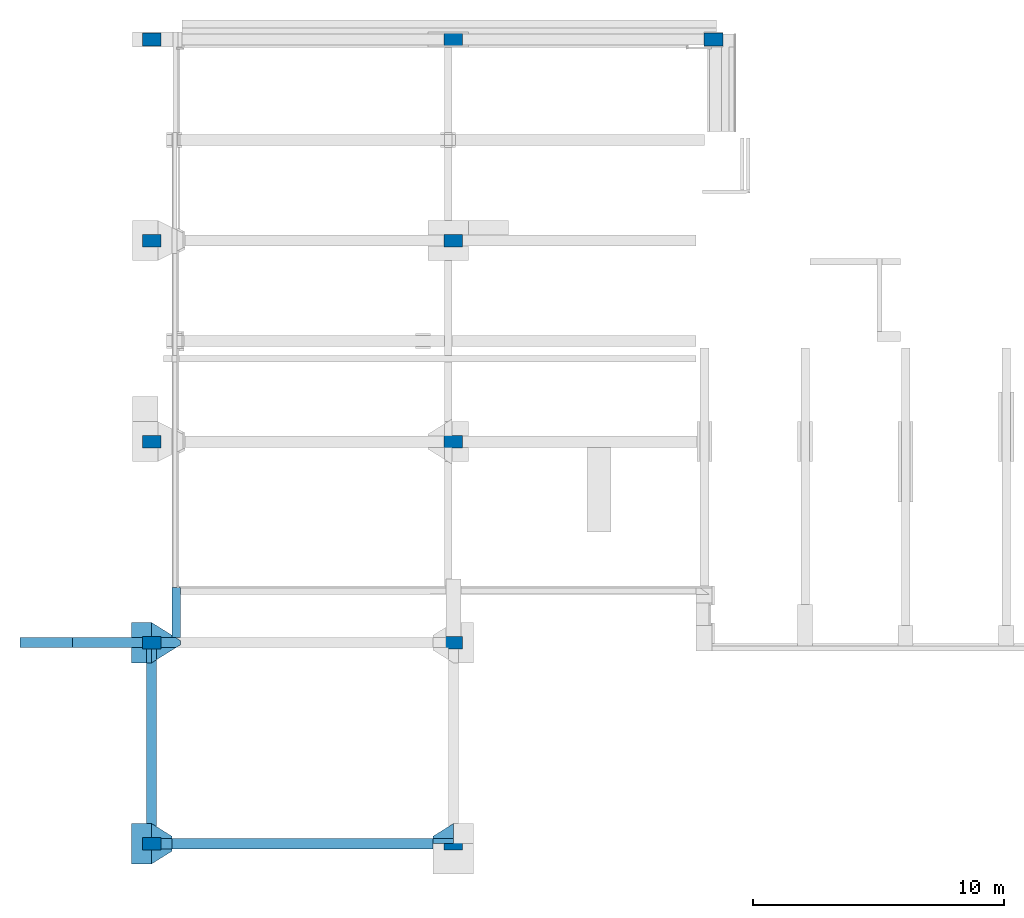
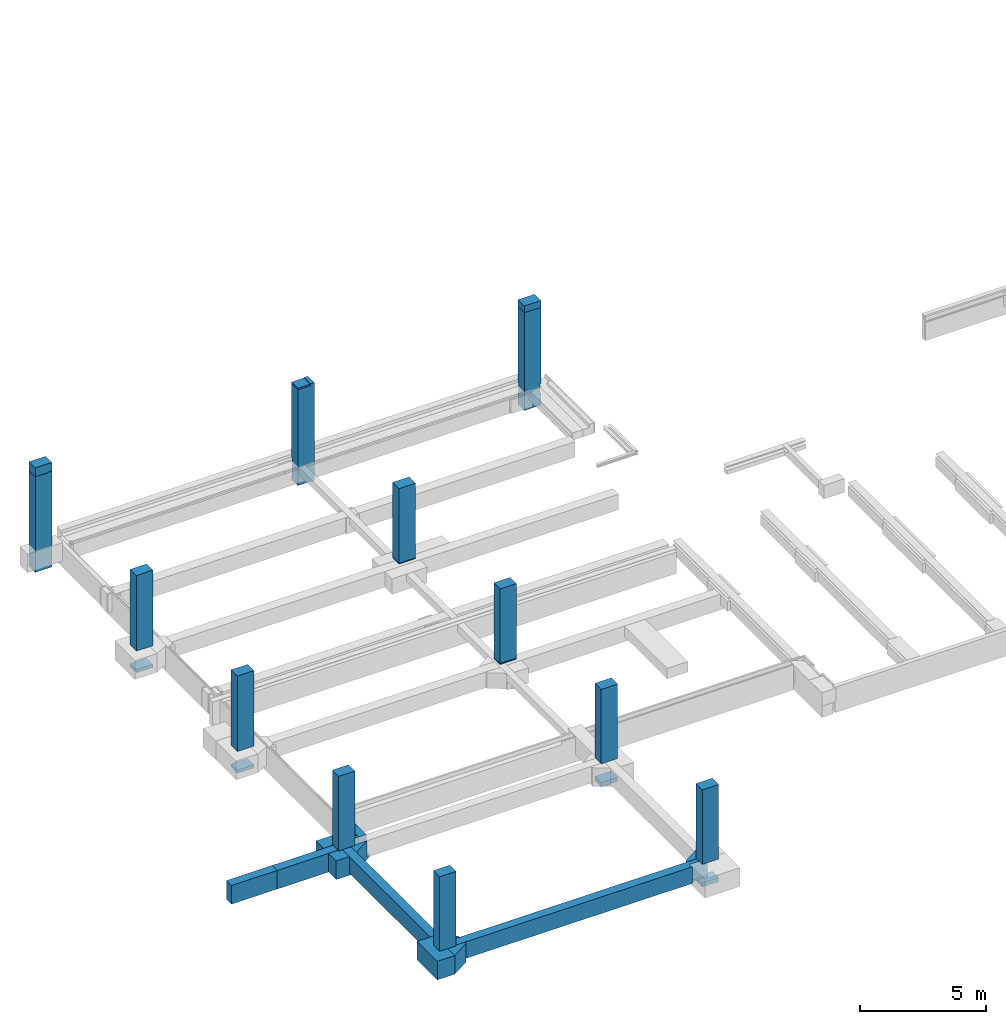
# One storey, part 1 of 17: 14 columns, 10 beams.
"""IFC2X3 building model written with IfcOpenShell, lengths in millimetres."""

from ifc_helpers import new_model, entity, si_unit, converted_unit, derived_unit, money_unit, direction, frame, origin_with_axes, place, context, subcontext, project, spatial, faceted_brep, material, type_object, element, save


model = new_model("IFC2X3")

# Units and contexts
model_context = context("Model", 3, precision=0.01, world=origin_with_axes(), true_north=direction((0.0, 1.0)))
body_context = subcontext(model_context, "Body", "Model", "MODEL_VIEW")
ifc_project = project(units=[si_unit("LENGTHUNIT", "METRE", prefix="MILLI"), si_unit("AREAUNIT", "SQUARE_METRE"), si_unit("VOLUMEUNIT", "CUBIC_METRE"), converted_unit("PLANEANGLEUNIT", "DEGREE", entity("IfcPlaneAngleMeasure", 0.0174532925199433), si_unit("PLANEANGLEUNIT", "RADIAN"), dimensions=[0, 0, 0, 0, 0, 0, 0]), money_unit("EUR"), converted_unit("TIMEUNIT", "Year", entity("IfcTimeMeasure", 31557600.0), si_unit("TIMEUNIT", "SECOND"), dimensions=[0, 0, 1, 0, 0, 0, 0]), si_unit("MASSUNIT", "GRAM", prefix="KILO"), si_unit("THERMODYNAMICTEMPERATUREUNIT", "DEGREE_CELSIUS"), si_unit("LUMINOUSINTENSITYUNIT", "LUMEN"), si_unit("ENERGYUNIT", "JOULE", prefix="MEGA"), derived_unit("THERMALCONDUCTANCEUNIT", [(si_unit("POWERUNIT", "WATT"), 1), (si_unit("LENGTHUNIT", "METRE"), -1), (si_unit("THERMODYNAMICTEMPERATUREUNIT", "KELVIN"), -1)]), derived_unit("SPECIFICHEATCAPACITYUNIT", [(si_unit("ENERGYUNIT", "JOULE"), 1), (si_unit("MASSUNIT", "GRAM", prefix="KILO"), -1), (si_unit("THERMODYNAMICTEMPERATUREUNIT", "KELVIN"), -1)]), derived_unit("MASSDENSITYUNIT", [(si_unit("MASSUNIT", "GRAM", prefix="KILO"), 1), (si_unit("VOLUMEUNIT", "CUBIC_METRE"), -1)])], contexts=[model_context])

# Site, building, storey
site_placement = place(None, origin_with_axes())
site = spatial("IfcSite", under=ifc_project, at=site_placement, Name="<site naam>", CompositionType="ELEMENT")
building_placement = place(site_placement, origin_with_axes())
building = spatial("IfcBuilding", under=site, at=building_placement, Name="<Naam gebouw>", CompositionType="ELEMENT")
storey_placement = place(building_placement, frame((0.0, 0.0, -1100.0), z_axis=(0.0, 0.0, 1.0), x_axis=(1.0, 0.0, 0.0)))
storey = spatial("IfcBuildingStorey", under=building, at=storey_placement, Name="-1 Fundering", CompositionType="ELEMENT", Elevation=-1100.0)

# Columns
ifc_material_1 = material(Name="betonblok C")
column_type = type_object("IfcColumnType", Name="betonblok C 500 x 750", PredefinedType="COLUMN")
column_1_placement = place(storey_placement, frame((-9999.999999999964, -7999.999999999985, 0.0), z_axis=(0.0, 0.0, 1.0), x_axis=(0.0, 1.0, 0.0)))
element("IfcColumn", 1, at=column_1_placement, inside=storey, type_object=column_type, material=ifc_material_1, Name="28_Kolom_betonblok", ObjectType="COLUMN", context=body_context, shape_type="Brep", body=[
    faceted_brep([(250.0, 375.0, 0.0), (250.0, 375.0, 200.0000000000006), (250.0, -375.0, 200.0000000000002), (250.0, -375.0, 0.0), (-250.0000000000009, 375.0, 0.0), (-250.0000000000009, 375.0, 200.0000000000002), (-250.0000000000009, -375.0, 200.0000000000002), (-250.0000000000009, -375.0, 0.0)], [[[0, 1, 2, 3]], [[4, 5, 1, 0]], [[6, 2, 1, 5]], [[3, 2, 6, 7]], [[0, 3, 7, 4]], [[6, 5, 4, 7]]]),
    faceted_brep([(250.0, 375.0, 1100.0), (250.0, -375.0, 1100.0), (-250.0000000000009, -375.0, 1100.0), (-250.0000000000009, 375.0, 1100.0), (250.0, -375.0, 4699.999999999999), (250.0, 375.0, 4700.0), (-250.0000000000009, -375.0, 4700.0), (-250.0000000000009, 375.0, 4700.0)], [[[0, 1, 2, 3]], [[4, 1, 0, 5]], [[6, 2, 1, 4]], [[7, 3, 2, 6]], [[5, 0, 3, 7]], [[6, 4, 5, 7]]]),
])
column_2_placement = place(storey_placement, frame((-9999.999999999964, 8000.000000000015, 0.0), z_axis=(0.0, 0.0, 1.0), x_axis=(0.0, 1.0, 0.0)))
element("IfcColumn", 2, at=column_2_placement, inside=storey, type_object=column_type, material=ifc_material_1, Name="28_Kolom_betonblok", ObjectType="COLUMN", context=body_context, shape_type="Brep", body=[
    faceted_brep([(250.0, 375.0, 0.0), (250.0, 375.0, 149.9999999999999), (250.0, -375.0, 149.9999999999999), (250.0, -375.0, 0.0), (-249.9999999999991, 375.0, 0.0), (-249.9999999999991, 375.0, 149.9999999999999), (-249.9999999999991, -375.0, 149.9999999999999), (-249.9999999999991, -375.0, 0.0)], [[[0, 1, 2, 3]], [[4, 5, 1, 0]], [[6, 2, 1, 5]], [[3, 2, 6, 7]], [[0, 3, 7, 4]], [[6, 5, 4, 7]]]),
    faceted_brep([(250.0, -375.0, 1050.0), (-249.9999999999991, -375.0, 1050.0), (-249.9999999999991, 375.0, 1050.0), (250.0, 375.0, 1050.0), (-249.9999999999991, -375.0, 4700.0), (250.0, -375.0, 4700.0), (-249.9999999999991, 375.0, 4700.0), (250.0, 375.0, 4700.0)], [[[0, 1, 2, 3]], [[4, 1, 0, 5]], [[6, 2, 1, 4]], [[7, 3, 2, 6]], [[0, 3, 7, 5]], [[6, 4, 5, 7]]]),
])
column_3_placement = place(storey_placement, frame((2000.000000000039, 16000.0, 169.9999999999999), z_axis=(0.0, 0.0, 1.0), x_axis=(0.0, 1.0, 0.0)))
element("IfcColumn", 3, at=column_3_placement, inside=storey, type_object=column_type, material=ifc_material_1, Name="28_Kolom_betonblok", ObjectType="COLUMN", context=body_context, shape_type="Brep", body=[
    faceted_brep([(250.0, 375.0000000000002, 930.0000000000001), (250.0, 375.0000000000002, 4529.999999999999), (250.0, -375.0, 4529.999999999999), (250.0, -375.0, 930.0000000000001), (-250.0, 375.0, 930.0000000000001), (-250.0, 375.0, 4529.999999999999), (-250.0, -375.0, 4529.999999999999), (-250.0, -375.0, 930.0000000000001)], [[[0, 1, 2, 3]], [[4, 5, 1, 0]], [[6, 2, 1, 5]], [[3, 2, 6, 7]], [[7, 4, 0, 3]], [[6, 5, 4, 7]]]),
    faceted_brep([(250.0, -375.0, 900.0000000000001), (-250.0, -375.0, 900.0000000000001), (-250.0, -375.0, 880.0000000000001), (250.0, -375.0, 880.0000000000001), (250.0, 375.0000000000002, 900.0000000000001), (-250.0, 375.0, 900.0000000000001), (-250.0, 375.0, 880.0000000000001), (250.0, 375.0000000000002, 880.0000000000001)], [[[0, 1, 2, 3]], [[4, 5, 1, 0]], [[1, 5, 6, 2]], [[2, 6, 7, 3]], [[4, 0, 3, 7]], [[5, 4, 7, 6]]]),
])
column_4_placement = place(storey_placement, frame((2000.000000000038, 8000.000000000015, 169.9999999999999), z_axis=(0.0, 0.0, 1.0), x_axis=(0.0, 1.0, 0.0)))
element("IfcColumn", 4, at=column_4_placement, inside=storey, type_object=column_type, material=ifc_material_1, Name="28_Kolom_betonblok", ObjectType="COLUMN", context=body_context, shape_type="Brep", body=[
    faceted_brep([(250.0, 374.9999999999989, 930.0000000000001), (250.0, 374.9999999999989, 4529.999999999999), (250.0, -375.0000000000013, 4529.999999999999), (250.0, -375.0000000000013, 930.0000000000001), (-249.9999999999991, 374.9999999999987, 930.0000000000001), (-249.9999999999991, 374.9999999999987, 4529.999999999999), (-249.9999999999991, -375.0000000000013, 4529.999999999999), (-249.9999999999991, -375.0000000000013, 930.0000000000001)], [[[0, 1, 2, 3]], [[4, 5, 1, 0]], [[5, 6, 2, 1]], [[3, 2, 6, 7]], [[7, 4, 0, 3]], [[7, 6, 5, 4]]]),
    faceted_brep([(250.0, -375.0000000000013, 900.0000000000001), (-249.9999999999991, -375.0000000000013, 900.0000000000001), (-249.9999999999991, -375.0000000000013, 880.0000000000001), (250.0, -375.0000000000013, 880.0000000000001), (250.0, 374.9999999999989, 900.0000000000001), (-249.9999999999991, 374.9999999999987, 900.0000000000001), (-249.9999999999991, 374.9999999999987, 880.0000000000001), (250.0, 374.9999999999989, 880.0000000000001)], [[[0, 1, 2, 3]], [[4, 5, 1, 0]], [[1, 5, 6, 2]], [[2, 6, 7, 3]], [[4, 0, 3, 7]], [[5, 4, 7, 6]]]),
])
column_5_placement = place(storey_placement, frame((2000.000000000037, -7999.999999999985, 0.0), z_axis=(0.0, 0.0, 1.0), x_axis=(0.0, 1.0, 0.0)))
element("IfcColumn", 5, at=column_5_placement, inside=storey, type_object=column_type, material=ifc_material_1, Name="28_Kolom_betonblok", ObjectType="COLUMN", context=body_context, shape_type="Brep", body=[
    faceted_brep([(250.0, 375.0, 0.0), (250.0, 375.0, 200.0000000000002), (250.0, -375.0, 200.0000000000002), (250.0, -375.0, 0.0), (-250.0000000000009, 374.9999999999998, 200.0000000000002), (-250.0000000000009, 374.9999999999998, 0.0), (-250.0000000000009, -375.0, 200.0000000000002), (-250.0000000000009, -375.0, 0.0)], [[[0, 1, 2, 3]], [[4, 1, 0, 5]], [[2, 1, 4, 6]], [[3, 2, 6, 7]], [[0, 3, 7, 5]], [[7, 6, 4, 5]]]),
    faceted_brep([(-250.0000000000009, -375.0, 4700.0), (-250.0000000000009, -375.0, 1100.0), (250.0, -375.0, 1100.0), (250.0, -375.0, 4700.0), (-250.0000000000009, 374.9999999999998, 4700.0), (-250.0000000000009, 374.9999999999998, 1100.0), (250.0, 375.0, 1100.0), (250.0, 375.0, 4700.0)], [[[0, 1, 2, 3]], [[4, 5, 1, 0]], [[2, 1, 5, 6]], [[3, 2, 6, 7]], [[4, 0, 3, 7]], [[7, 6, 5, 4]]]),
])
column_6_placement = place(storey_placement, frame((-9999.999999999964, 0.0, 0.0), z_axis=(0.0, 0.0, 1.0), x_axis=(0.0, 1.0, 0.0)))
element("IfcColumn", 6, at=column_6_placement, inside=storey, type_object=column_type, material=ifc_material_1, Name="28_Kolom_betonblok", ObjectType="COLUMN", context=body_context, shape_type="Brep", body=[
    faceted_brep([(249.9999999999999, 375.0, 0.0), (249.9999999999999, 375.0, 199.9999999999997), (250.0000000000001, -375.0, 200.0000000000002), (250.0000000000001, -375.0, 0.0), (-250.0000000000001, 375.0, 0.0), (-250.0000000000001, 375.0, 200.0000000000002), (-249.9999999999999, -375.0, 200.0000000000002), (-249.9999999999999, -375.0, 0.0)], [[[0, 1, 2, 3]], [[4, 5, 1, 0]], [[1, 5, 6, 2]], [[3, 2, 6, 7]], [[0, 3, 7, 4]], [[6, 5, 4, 7]]]),
    faceted_brep([(249.9999999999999, 375.0, 1100.0), (250.0000000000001, -375.0, 1100.0), (-249.9999999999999, -375.0, 1100.0), (-250.0000000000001, 375.0, 1100.0), (250.0000000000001, -375.0, 4700.0), (249.9999999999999, 375.0, 4700.0), (-249.9999999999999, -375.0, 4700.0), (-250.0000000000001, 375.0, 4700.0)], [[[0, 1, 2, 3]], [[4, 1, 0, 5]], [[2, 1, 4, 6]], [[7, 3, 2, 6]], [[5, 0, 3, 7]], [[7, 6, 4, 5]]]),
])
column_7_placement = place(storey_placement, frame((2000.000000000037, 0.0, 0.0), z_axis=(0.0, 0.0, 1.0), x_axis=(0.0, 1.0, 0.0)))
element("IfcColumn", 7, at=column_7_placement, inside=storey, type_object=column_type, material=ifc_material_1, Name="28_Kolom_betonblok", ObjectType="COLUMN", context=body_context, shape_type="Brep", body=[
    faceted_brep([(249.9999999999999, 375.0, 199.9999999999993), (250.0000000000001, -375.0, 199.9999999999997), (250.0000000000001, -375.0, 0.0), (249.9999999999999, 375.0, 0.0), (-250.0000000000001, 375.0, 199.9999999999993), (-249.9999999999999, -375.0, 199.9999999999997), (-249.9999999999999, -375.0, 0.0), (-250.0000000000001, 375.0, 0.0)], [[[0, 1, 2, 3]], [[4, 5, 1, 0]], [[2, 1, 5, 6]], [[3, 2, 6, 7]], [[7, 4, 0, 3]], [[6, 5, 4, 7]]]),
    faceted_brep([(-249.9999999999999, -375.0, 4700.0), (-249.9999999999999, -375.0, 1100.0), (250.0000000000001, -375.0, 1100.0), (250.0000000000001, -375.0, 4700.0), (-250.0000000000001, 375.0, 4700.0), (-250.0000000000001, 375.0, 1100.0), (249.9999999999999, 375.0, 1100.0), (249.9999999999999, 375.0, 4700.0)], [[[0, 1, 2, 3]], [[4, 5, 1, 0]], [[1, 5, 6, 2]], [[3, 2, 6, 7]], [[4, 0, 3, 7]], [[6, 5, 4, 7]]]),
])
column_8_placement = place(storey_placement, frame((-9999.999999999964, 24000.00000000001, 0.0), z_axis=(0.0, 0.0, 1.0), x_axis=(0.0, 1.0, 0.0)))
element("IfcColumn", 8, at=column_8_placement, inside=storey, type_object=column_type, material=ifc_material_1, Name="28_Kolom_betonblok", ObjectType="COLUMN", context=body_context, shape_type="Brep", body=[
    faceted_brep([(250.0, 375.0, 0.0), (250.0, 375.0, 149.9999999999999), (250.0, -375.0, 149.9999999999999), (250.0, -375.0, 0.0), (-250.0, 375.0, 0.0), (-250.0, 375.0, 149.9999999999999), (-250.0, -375.0, 149.9999999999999), (-250.0, -375.0, 0.0)], [[[0, 1, 2, 3]], [[4, 5, 1, 0]], [[5, 6, 2, 1]], [[3, 2, 6, 7]], [[0, 3, 7, 4]], [[7, 6, 5, 4]]]),
    faceted_brep([(-250.0, -375.0, 5050.0), (-250.0, -375.0, 1050.0), (250.0, -375.0, 1050.0), (250.0, -375.0, 5050.0), (-250.0, 375.0, 5050.0), (-250.0, 375.0, 1050.0), (250.0, 375.0, 1050.0), (250.0, 375.0, 5050.0)], [[[0, 1, 2, 3]], [[4, 5, 1, 0]], [[5, 6, 2, 1]], [[3, 2, 6, 7]], [[7, 4, 0, 3]], [[7, 6, 5, 4]]]),
])
column_9_placement = place(storey_placement, frame((2000.000000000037, 24000.00000000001, 169.9999999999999), z_axis=(0.0, 0.0, 1.0), x_axis=(0.0, 1.0, 0.0)))
element("IfcColumn", 9, at=column_9_placement, inside=storey, type_object=column_type, material=ifc_material_1, Name="28_Kolom_betonblok", ObjectType="COLUMN", context=body_context, shape_type="Brep", body=[
    faceted_brep([(250.0, 374.9999999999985, 930.0000000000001), (250.0, 374.9999999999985, 4529.999999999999), (250.0, -374.9999999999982, 4529.999999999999), (250.0, -374.9999999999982, 930.0000000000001), (-250.0, 375.0000000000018, 930.0000000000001), (-250.0, 375.0000000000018, 4529.999999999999), (-250.0, -374.9999999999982, 4529.999999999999), (-250.0, -374.9999999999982, 930.0000000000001)], [[[0, 1, 2, 3]], [[4, 5, 1, 0]], [[5, 6, 2, 1]], [[3, 2, 6, 7]], [[7, 4, 0, 3]], [[7, 6, 5, 4]]]),
    faceted_brep([(250.0, -374.9999999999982, 900.0000000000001), (-250.0, -374.9999999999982, 900.0000000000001), (-250.0, -374.9999999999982, 880.0000000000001), (250.0, -374.9999999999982, 880.0000000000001), (250.0, 374.9999999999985, 900.0000000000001), (-250.0, 375.0000000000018, 900.0000000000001), (-250.0, 375.0000000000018, 880.0000000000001), (250.0, 374.9999999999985, 880.0000000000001)], [[[0, 1, 2, 3]], [[4, 5, 1, 0]], [[1, 5, 6, 2]], [[2, 6, 7, 3]], [[4, 0, 3, 7]], [[5, 4, 7, 6]]]),
])
column_10_placement = place(storey_placement, frame((12350.00000000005, 24000.00000000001, 0.0), z_axis=(0.0, 0.0, 1.0), x_axis=(0.0, 1.0, 0.0)))
element("IfcColumn", 10, at=column_10_placement, inside=storey, type_object=column_type, material=ifc_material_1, Name="28_Kolom_betonblok", ObjectType="COLUMN", context=body_context, shape_type="Brep", body=[
    faceted_brep([(225.0000000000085, 0.0, 549.999600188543), (-224.9999999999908, 0.0, 549.999600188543), (-224.9999999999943, 375.0000000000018, 549.999600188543), (-250.0, 375.0000000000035, 549.999600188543), (-250.0, -374.9999999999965, 549.999600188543), (250.0, -375.0000000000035, 549.999600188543), (250.0, 374.9999999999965, 549.999600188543), (225.0000000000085, 374.9999999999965, 549.999600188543), (-224.9999999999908, 0.0, 149.9999999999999), (225.0000000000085, 0.0, 149.9999999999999), (-224.9999999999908, 375.0, 149.9999999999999), (225.0000000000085, 375.0, 149.9999999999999), (250.0, 375.0, 0.0), (-250.0, 375.0, 0.0), (-250.0, -375.0, 0.0), (250.0, -375.0, 0.0)], [[[0, 1, 2, 3, 4, 5, 6, 7]], [[8, 1, 0, 9]], [[10, 2, 1, 8]], [[10, 11, 7, 6, 12, 13, 3, 2]], [[14, 4, 3, 13]], [[15, 5, 4, 14]], [[12, 6, 5, 15]], [[9, 0, 7, 11]], [[9, 11, 10, 8]], [[13, 12, 15, 14]]]),
    faceted_brep([(-250.0, -375.0, 5050.0), (-250.0, -375.0, 1100.0), (250.0, -375.0, 1100.0), (250.0, -375.0, 5050.0), (-250.0, 375.0, 5050.0), (-250.0, 375.0, 1100.0), (250.0, 375.0, 1100.0), (250.0, 375.0, 5050.0)], [[[0, 1, 2, 3]], [[4, 5, 1, 0]], [[5, 6, 2, 1]], [[3, 2, 6, 7]], [[7, 4, 0, 3]], [[7, 6, 5, 4]]]),
    faceted_brep([(-250.0, -375.0, 1070.0), (-250.0, -375.0, 1050.0), (250.0, -375.0, 1050.0), (250.0, -375.0, 1070.0), (-250.0, 375.0, 1070.0), (-250.0, 375.0, 1050.0), (250.0, 375.0, 1050.0), (250.0, 375.0, 1070.0)], [[[0, 1, 2, 3]], [[4, 5, 1, 0]], [[5, 6, 2, 1]], [[3, 2, 6, 7]], [[4, 0, 3, 7]], [[7, 6, 5, 4]]]),
])
column_11_placement = place(storey_placement, frame((-9999.999999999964, 16000.00000000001, 0.0), z_axis=(0.0, 0.0, 1.0), x_axis=(0.0, 1.0, 0.0)))
element("IfcColumn", 11, at=column_11_placement, inside=storey, type_object=column_type, material=ifc_material_1, Name="28_Kolom_betonblok", ObjectType="COLUMN", context=body_context, shape_type="Brep", body=[
    faceted_brep([(250.0, 375.0, 0.0), (250.0, 375.0, 149.9999999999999), (250.0, -375.0, 150.0000000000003), (250.0, -375.0, 0.0), (-250.0, 375.0, 0.0), (-250.0, 375.0, 149.9999999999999), (-250.0, -375.0, 150.0000000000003), (-250.0, -375.0, 0.0)], [[[0, 1, 2, 3]], [[4, 5, 1, 0]], [[6, 2, 1, 5]], [[3, 2, 6, 7]], [[0, 3, 7, 4]], [[6, 5, 4, 7]]]),
    faceted_brep([(250.0, -375.0, 1050.0), (-250.0, -375.0, 1050.0), (-250.0, 375.0, 1050.0), (250.0, 375.0, 1050.0), (-250.0, -375.0, 4700.0), (250.0, -375.0, 4700.0), (-250.0, 375.0, 4700.0), (250.0, 375.0, 4700.0)], [[[0, 1, 2, 3]], [[4, 1, 0, 5]], [[6, 2, 1, 4]], [[7, 3, 2, 6]], [[0, 3, 7, 5]], [[4, 5, 7, 6]]]),
])
column_12_placement = place(storey_placement, frame((-9999.999999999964, 24000.00000000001, 0.0), z_axis=(0.0, 0.0, 1.0), x_axis=(0.0, 1.0, 0.0)))
element("IfcColumn", 12, at=column_12_placement, inside=storey, type_object=column_type, material=ifc_material_1, Name="28_Kolom_betonblok", ObjectType="COLUMN", context=body_context, shape_type="Brep", body=[
    faceted_brep([(250.0, -195.9246285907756, 4619.999999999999), (250.0, -195.924628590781, 4640.0), (250.0, -375.0, 4640.0), (250.0, -375.0, 0.0), (250.0, 375.0, 0.0), (250.0, 375.0, 4619.999999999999), (-250.0, -195.9246285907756, 4619.999999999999), (-250.0, -195.924628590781, 4640.0), (-250.0, -375.0, 4640.0), (-250.0, -375.0, 0.0), (-250.0, 375.0, 0.0), (-250.0, 375.0, 4619.999999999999)], [[[0, 1, 2, 3, 4, 5]], [[6, 7, 1, 0]], [[7, 8, 2, 1]], [[3, 2, 8, 9]], [[4, 3, 9, 10]], [[10, 11, 5, 4]], [[6, 0, 5, 11]], [[9, 8, 7, 6, 11, 10]]]),
])
column_13_placement = place(storey_placement, frame((2000.000000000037, 24000.00000000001, 0.0), z_axis=(0.0, 0.0, 1.0), x_axis=(0.0, 1.0, 0.0)))
element("IfcColumn", 13, at=column_13_placement, inside=storey, type_object=column_type, material=ifc_material_1, Name="28_Kolom_betonblok", ObjectType="COLUMN", context=body_context, shape_type="Brep", body=[
    faceted_brep([(250.0, -195.9246285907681, 4619.999999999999), (250.0, -195.9246285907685, 4719.999999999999), (250.0, -375.0, 4719.999999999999), (250.0, -375.0, 1050.000150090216), (250.0, 375.0, 1050.000150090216), (250.0, 375.0, 4619.999999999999), (-250.0, -195.9246285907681, 4619.999999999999), (-250.0, -195.9246285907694, 4719.999999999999), (-250.0, -375.0, 4720.0), (-250.0, -375.0, 0.0), (250.0, -375.0, 0.0), (250.0, -375.0, 149.9999962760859), (224.9596240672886, -375.0, 149.9999962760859), (224.9596240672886, -375.0, 1050.000150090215), (224.9596240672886, 375.0000000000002, 1050.000150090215), (-250.0, 375.0, 0.0), (-250.0, 375.0, 4620.0), (224.9596240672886, 375.0000000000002, 149.9999962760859), (250.0, 375.0, 149.9999962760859), (250.0, 375.0, 0.0)], [[[0, 1, 2, 3, 4, 5]], [[6, 7, 1, 0]], [[7, 8, 2, 1]], [[3, 2, 8, 9, 10, 11, 12, 13]], [[14, 4, 3, 13]], [[15, 16, 5, 4, 14, 17, 18, 19]], [[6, 0, 5, 16]], [[9, 8, 7, 6, 16, 15]], [[19, 10, 9, 15]], [[19, 18, 11, 10]], [[17, 12, 11, 18]], [[14, 13, 12, 17]]]),
])
column_14_placement = place(storey_placement, frame((12350.00000000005, 24000.00000000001, 0.0), z_axis=(0.0, 0.0, 1.0), x_axis=(0.0, 1.0, 0.0)))
element("IfcColumn", 14, at=column_14_placement, inside=storey, type_object=column_type, material=ifc_material_1, Name="28_Kolom_betonblok", ObjectType="COLUMN", context=body_context, shape_type="Brep", body=[
    faceted_brep([(250.0, 375.0, 1050.000150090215), (250.0, 375.0, 4719.999999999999), (250.0, -375.0, 4720.0), (250.0, -375.0, 0.0), (250.0, 375.0, 0.0), (250.0, 375.0, 149.9999962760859), (250.0, -115.0000133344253, 149.9999962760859), (250.0, -115.0000133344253, 1050.000150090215), (-250.0, 375.0, 0.0), (-250.0, 375.0, 4720.0), (224.9596240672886, 375.0, 1050.000150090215), (224.9596240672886, 375.0, 149.9999962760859), (-250.0, -375.0, 4719.999999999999), (-250.0, -375.0, 1050.000000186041), (224.9999991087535, -375.0, 1050.00000018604), (224.9999991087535, -375.0, 549.9976160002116), (-250.0, -375.0, 549.997616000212), (-250.0, -375.0, 0.0), (224.9596240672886, -115.0000133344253, 149.9999962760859), (224.9596240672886, -115.0000133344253, 1050.000150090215), (-250.0, -325.4160786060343, 549.9976160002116), (-250.0, -325.4160786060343, 1050.00000018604), (224.9999992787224, -325.4160802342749, 1050.00000018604), (224.9999992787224, -325.4160802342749, 549.9976160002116)], [[[0, 1, 2, 3, 4, 5, 6, 7]], [[8, 9, 1, 0, 10, 11, 5, 4]], [[9, 12, 2, 1]], [[3, 2, 12, 13, 14, 15, 16, 17]], [[4, 3, 17, 8]], [[18, 6, 5, 11]], [[19, 7, 6, 18]], [[10, 0, 7, 19]], [[13, 12, 9, 8, 17, 16, 20, 21]], [[18, 11, 10, 19]], [[22, 14, 13, 21]], [[23, 15, 14, 22]], [[20, 16, 15, 23]], [[22, 21, 20, 23]]]),
])

# Beams
ifc_material_2 = material(Name="beton_gewapend C")
beam_type_1 = type_object("IfcBeamType", Name="beton_gewapend C 400 x 800", PredefinedType="BEAM")
beam_1_placement = place(storey_placement, frame((-9999.999999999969, -7999.999999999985, 1100.0), z_axis=(0.0, 0.0, 1.0), x_axis=(1.0, 0.0, 0.0)))
element("IfcBeam", 15, at=beam_1_placement, inside=storey, type_object=beam_type_1, material=ifc_material_2, Name="28_Balk_beton_gewapend", ObjectType="BEAM", context=body_context, shape_type="Brep", body=[
    faceted_brep([(200.0000000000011, 675.0000000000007, -799.9999999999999), (199.9999999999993, 7800.0, -799.9999999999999), (199.9999999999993, 7800.0, 0.0), (199.9999999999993, 675.0000000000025, 0.0), (0.0, 8200.0, -799.9999999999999), (0.0, 7799.999999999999, -799.9999999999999), (0.0, 799.9999999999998, -799.9999999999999), (-199.9999999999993, 800.0000000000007, -799.9999999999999), (-200.0000000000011, 8200.0, -799.9999999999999), (0.0, 7799.999999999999, 0.0), (0.0, 8200.0, 0.0), (-200.0000000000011, 8200.0, 0.0), (-199.9999999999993, 799.9999999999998, 0.0), (0.0, 799.9999999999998, 0.0)], [[[0, 1, 2, 3]], [[4, 5, 1, 0, 6, 7, 8]], [[5, 9, 2, 1]], [[2, 9, 10, 11, 12, 13, 3]], [[0, 3, 13, 6]], [[5, 4, 10, 9]], [[12, 7, 6, 13]], [[11, 8, 7, 12]], [[11, 10, 4, 8]]]),
])
beam_2_placement = place(storey_placement, frame((-9999.999999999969, -7999.999999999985, 1100.0), z_axis=(0.0, 0.0, 1.0), x_axis=(0.0, -1.0, 0.0)))
element("IfcBeam", 16, at=beam_2_placement, inside=storey, type_object=beam_type_1, material=ifc_material_2, Name="28_Balk_beton_gewapend", ObjectType="BEAM", context=body_context, shape_type="Brep", body=[
    faceted_brep([(200.0000000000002, 0.0, 0.0), (200.0000000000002, 11200.0, 0.0), (0.0, 11200.0, 0.0), (0.0, 12000.0, 0.0), (-200.0000000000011, 12000.0, 0.0), (-200.0000000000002, 0.0, 0.0), (200.0000000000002, 0.0, -799.9999999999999), (200.0000000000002, 11200.0, -799.9999999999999), (0.0, 11200.0, -799.9999999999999), (0.0, 12000.0, -799.9999999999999), (-200.0000000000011, 12000.0, -799.9999999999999), (-200.0000000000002, 0.0, -799.9999999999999)], [[[0, 1, 2, 3, 4, 5]], [[6, 7, 1, 0]], [[8, 2, 1, 7]], [[8, 9, 3, 2]], [[4, 3, 9, 10]], [[11, 5, 4, 10]], [[0, 5, 11, 6]], [[9, 8, 7, 6, 11, 10]]]),
])
beam_type_2 = type_object("IfcBeamType", Name="beton_gewapend C 350 x 400", PredefinedType="BEAM")
beam_3_placement = place(storey_placement, frame((-9199.999999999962, 0.0, 1100.0), z_axis=(0.0, 0.0, 1.0), x_axis=(1.0, -3.088315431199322e-10, 0.0)))
element("IfcBeam", 17, at=beam_3_placement, inside=storey, type_object=beam_type_2, material=ifc_material_2, Name="28_Balk_beton_gewapend", ObjectType="BEAM", context=body_context, shape_type="Brep", body=[
    faceted_brep([(349.9999999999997, 2185.673568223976, -200.0), (349.9999999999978, 1925.006403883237, -200.0), (349.9999999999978, 1925.006403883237, -50.00000000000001), (349.9999999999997, 2185.673568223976, -50.00000000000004), (349.9999999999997, 2185.673568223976, 0.0), (349.9999999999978, 200.0000001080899, 0.0), (350.0000000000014, 200.0000001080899, -400.0), (349.9999999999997, 2185.673568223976, -400.0), (44.99999940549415, 1925.006403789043, -200.0), (199.9999999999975, 2185.673568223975, -200.0), (200.0000000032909, 2175.000000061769, -200.0), (44.99999932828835, 2175.000000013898, -200.0), (44.99999940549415, 1925.006403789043, -50.00000000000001), (44.99999932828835, 2175.0000000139, -50.00000000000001), (3.295141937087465e-09, 2175.000000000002, -50.00000000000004), (0.0, 2185.673568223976, -50.00000000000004), (0.0, 2185.673568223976, 0.0), (0.0, 199.9999999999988, 0.0), (5.577760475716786e-10, 199.9999999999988, -400.0), (200.0000000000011, 2185.673568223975, -400.0), (3.295141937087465e-09, 2175.000000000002, -400.0000000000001), (200.0000000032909, 2175.000000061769, -400.0000000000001)], [[[0, 1, 2, 3, 4, 5, 6, 7]], [[8, 1, 0, 9, 10, 11]], [[12, 2, 1, 8]], [[12, 13, 14, 15, 3, 2]], [[4, 3, 15, 16]], [[4, 16, 17, 5]], [[17, 18, 6, 5]], [[19, 7, 6, 18, 20, 21]], [[19, 9, 0, 7]], [[21, 10, 9, 19]], [[13, 11, 10, 21, 20, 14]], [[8, 11, 13, 12]], [[14, 20, 18, 17, 16, 15]]]),
])
beam_type_3 = type_object("IfcBeamType", Name="beton_gewapend C 1600 x 900", PredefinedType="BEAM")
beam_4_placement = place(storey_placement, frame((-9999.999999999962, 0.0, 1100.0), z_axis=(0.0, 0.0, 1.0), x_axis=(0.0, 1.0, 0.0)))
element("IfcBeam", 18, at=beam_4_placement, inside=storey, type_object=beam_type_3, material=ifc_material_2, Name="28_Balk_beton_gewapend", ObjectType="BEAM", context=body_context, shape_type="Brep", body=[
    faceted_brep([(-800.0000000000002, 0.0, -799.9999999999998), (-800.0000000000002, 0.0, -900.0), (-200.0000000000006, 0.0, -900.0), (-200.0000000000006, 0.0, -799.9999999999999), (-800.0000000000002, 800.0000000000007, -900.0), (-800.0000000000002, 200.0000000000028, -799.9999999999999), (-800.0000000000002, 200.0000000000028, 0.0), (-800.0000000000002, 800.0000000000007, 0.0), (-200.0000000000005, 800.0000000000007, -900.0), (-200.0000000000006, 800.0000000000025, 0.0), (-200.0000000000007, 200.0000000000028, 0.0), (-200.0000000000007, 200.0000000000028, -799.9999999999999)], [[[0, 1, 2, 3]], [[4, 1, 0, 5, 6, 7]], [[1, 4, 8, 2]], [[9, 10, 11, 3, 2, 8]], [[5, 0, 3, 11]], [[6, 5, 11, 10]], [[7, 6, 10, 9]], [[4, 7, 9, 8]]]),
    faceted_brep([(199.9999999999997, 800.0000000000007, -900.0), (199.9999999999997, 0.0, -900.0), (199.9999999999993, 0.0, -799.9999999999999), (199.9999999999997, 0.0, 0.0), (199.9999999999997, 200.0000000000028, 0.0), (199.9999999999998, 800.0000000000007, 0.0), (800.0000000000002, 800.0000000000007, -900.0), (800.0000000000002, 0.0, -900.0), (800.0000000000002, 0.0, 0.0), (800.0000000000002, 800.0000000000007, 0.0)], [[[0, 1, 2, 3, 4, 5]], [[6, 7, 1, 0]], [[8, 3, 2, 1, 7]], [[8, 9, 5, 4, 3]], [[9, 6, 0, 5]], [[7, 6, 9, 8]]]),
])
beam_5_placement = place(storey_placement, frame((-9199.999999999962, 0.0, 1100.0), z_axis=(0.0, 0.0, 1.0), x_axis=(0.0, 1.0, 0.0)))
element("IfcBeam", 19, at=beam_5_placement, inside=storey, type_object=beam_type_3, material=ifc_material_2, Name="28_Balk_beton_gewapend", ObjectType="BEAM", context=body_context, shape_type="Brep", body=[
    faceted_brep([(199.9999999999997, 800.0000000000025, 0.0), (199.9999999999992, 800.0000000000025, -799.9999999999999), (199.9999999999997, 800.0000000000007, -900.0), (199.9999999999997, 599.9999999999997, -900.0), (199.9999999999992, 599.9999999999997, -799.9999999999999), (199.9999999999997, -160.0000000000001, -799.9999999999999), (199.9999999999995, -160.0000000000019, -400.0), (199.9999999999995, -6.232170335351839e-08, -400.0), (199.9999999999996, -6.176570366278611e-08, 0.0), (800.0000000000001, 800.0000000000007, -900.0), (800.0000000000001, 800.0000000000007, 0.0), (-200.0000000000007, 599.9999999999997, -900.0), (81.25000001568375, -349.9999999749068, -900.0), (-81.25000001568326, -349.9999999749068, -900.0), (-800.0000000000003, 800.0000000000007, -900.0), (-200.0000000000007, 800.0000000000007, -900.0), (-200.0000000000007, 599.9999999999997, -799.9999999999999), (-200.0000000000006, -160.0000000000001, -799.9999999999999), (-81.25000001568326, -349.9999999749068, -799.9999999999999), (81.25000001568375, -349.9999999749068, -799.9999999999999), (299.9999999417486, -9.264944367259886e-08, 0.0), (299.9999999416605, -9.334399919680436e-08, -400.0), (-200.0000000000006, -159.9999999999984, 0.0), (-675.000000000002, 600.0000000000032, 0.0), (-675.0000000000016, 600.0000000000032, -799.9999999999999), (-800.0000000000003, 800.0000000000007, -799.9999999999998), (-200.0000000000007, 800.0000000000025, -799.9999999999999), (-200.0000000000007, 600.0000000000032, 0.0)], [[[0, 1, 2, 3, 4, 5, 6, 7, 8]], [[9, 2, 1, 0, 10]], [[11, 3, 2, 9, 12, 13, 14, 15]], [[11, 16, 4, 3]], [[5, 4, 16, 17, 18, 19]], [[9, 10, 20, 21, 6, 5, 19, 12]], [[6, 21, 7]], [[8, 7, 21, 20]], [[10, 0, 8, 20]], [[12, 19, 18, 13]], [[17, 22, 23, 24, 25, 14, 13, 18]], [[25, 26, 15, 14]], [[15, 26, 16, 11]], [[27, 22, 17, 16]], [[27, 23, 22]], [[27, 16, 24, 23]], [[24, 16, 26, 25]]]),
])
beam_6_placement = place(storey_placement, frame((-9999.999999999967, -7999.999999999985, 1100.0), z_axis=(0.0, 0.0, 1.0), x_axis=(0.0, 1.0, 0.0)))
element("IfcBeam", 20, at=beam_6_placement, inside=storey, type_object=beam_type_3, material=ifc_material_2, Name="28_Balk_beton_gewapend", ObjectType="BEAM", context=body_context, shape_type="Brep", body=[
    faceted_brep([(799.9999999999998, 0.0, -900.0), (-800.0000000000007, 0.0, -900.0), (-800.0000000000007, 800.0000000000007, -900.0), (799.9999999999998, 800.0000000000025, -900.0), (799.9999999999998, 0.0, 0.0), (-800.0000000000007, 0.0, 0.0), (-800.0000000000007, 800.0000000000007, 0.0), (799.9999999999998, 800.0000000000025, 0.0)], [[[0, 1, 2, 3]], [[4, 5, 1, 0]], [[1, 5, 6, 2]], [[7, 3, 2, 6]], [[4, 0, 3, 7]], [[5, 4, 7, 6]]]),
])
beam_7_placement = place(storey_placement, frame((-9199.999999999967, -7999.999999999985, 1100.0), z_axis=(0.0, 0.0, 1.0), x_axis=(0.0, 1.0, 0.0)))
element("IfcBeam", 21, at=beam_7_placement, inside=storey, type_object=beam_type_3, material=ifc_material_2, Name="28_Balk_beton_gewapend", ObjectType="BEAM", context=body_context, shape_type="Brep", body=[
    faceted_brep([(299.9999999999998, 0.0, 0.0), (799.9999999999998, 800.0000000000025, 0.0), (199.9999999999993, 800.0000000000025, 0.0), (200.0000000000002, 0.0, 0.0), (299.9999999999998, 0.0, -900.0), (799.9999999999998, 800.0000000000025, -900.0), (-200.0000000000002, 800.0000000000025, 0.0), (-200.0000000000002, 800.0000000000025, -799.9999999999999), (199.9999999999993, 800.0000000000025, -799.9999999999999), (-799.9999999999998, 800.0000000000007, -900.0), (-799.9999999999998, 800.0000000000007, 0.0), (200.0000000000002, 0.0, -799.9999999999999), (-200.0000000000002, 0.0, -799.9999999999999), (-200.0000000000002, 0.0, 0.0), (-300.0000000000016, 0.0, 0.0), (-300.0000000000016, 0.0, -900.0)], [[[0, 1, 2, 3]], [[4, 5, 1, 0]], [[6, 7, 8, 2, 1, 5, 9, 10]], [[2, 8, 11, 3]], [[3, 11, 12, 13, 14, 15, 4, 0]], [[15, 9, 5, 4]], [[12, 7, 6, 13]], [[8, 7, 12, 11]], [[14, 10, 9, 15]], [[10, 14, 13, 6]]]),
])
beam_8_placement = place(storey_placement, frame((1200.000000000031, -7999.999999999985, 1100.0), z_axis=(0.0, 0.0, 1.0), x_axis=(0.0, -1.0, 0.0)))
element("IfcBeam", 22, at=beam_8_placement, inside=storey, type_object=beam_type_3, material=ifc_material_2, Name="28_Balk_beton_gewapend", ObjectType="BEAM", context=body_context, shape_type="Brep", body=[
    faceted_brep([(-799.9999999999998, 800.0000000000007, 0.0), (-299.9999999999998, 0.0, 0.0), (-200.000000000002, 0.0, 0.0), (-200.0000000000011, 800.000000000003, 0.0), (-799.9999999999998, 800.0000000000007, -899.9999999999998), (-299.9999999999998, 0.0, -899.9999999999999), (0.0, 0.0, -900.0), (0.0, 0.0, -799.9999999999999), (-200.000000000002, 0.0, -799.9999999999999), (-200.0000000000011, 800.000000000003, -799.9999999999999), (0.0, 800.0000000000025, -799.9999999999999), (0.0, 800.0000000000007, -900.0)], [[[0, 1, 2, 3]], [[4, 5, 1, 0]], [[6, 7, 8, 2, 1, 5]], [[2, 8, 9, 3]], [[0, 3, 9, 10, 11, 4]], [[11, 6, 5, 4]], [[6, 11, 10, 7]], [[8, 7, 10, 9]]]),
])
beam_type_4 = type_object("IfcBeamType", Name="beton_gewapend C 400 x 900", PredefinedType="BEAM")
beam_9_placement = place(storey_placement, frame((-13149.99999999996, 0.0, 1100.0), z_axis=(0.0, 0.0, 1.0), x_axis=(0.0, -1.0, 0.0)))
element("IfcBeam", 23, at=beam_9_placement, inside=storey, type_object=beam_type_4, material=ifc_material_2, Name="28_Balk_beton_gewapend", ObjectType="BEAM", context=body_context, shape_type="Brep", body=[
    faceted_brep([(-200.0000000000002, 0.0, 0.0), (-200.0000000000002, 2949.999999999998, 0.0), (-200.0000000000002, 2949.999999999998, -799.9999999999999), (-199.9999999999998, 3149.999999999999, -799.9999999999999), (-199.9999999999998, 3350.000000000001, -799.9999999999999), (-200.0000000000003, 3350.000000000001, -900.0), (-199.9999999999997, 0.0, -900.0), (200.0000000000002, 0.0, 0.0), (200.0000000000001, 2949.999999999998, 0.0), (200.0000000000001, 2949.999999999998, -799.9999999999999), (200.0000000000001, 3149.999999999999, -799.9999999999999), (200.0000000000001, 3350.000000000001, -799.9999999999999), (200.0000000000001, 3350.000000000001, -900.0), (200.0000000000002, 0.0, -900.0)], [[[0, 1, 2, 3, 4, 5, 6]], [[7, 8, 1, 0]], [[9, 2, 1, 8]], [[4, 3, 2, 9, 10, 11]], [[12, 5, 4, 11]], [[5, 12, 13, 6]], [[6, 13, 7, 0]], [[10, 9, 8, 7, 13, 12, 11]]]),
])
beam_10_placement = place(storey_placement, frame((-13149.99999999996, 0.0, 1100.0), z_axis=(0.0, 0.0, 1.0), x_axis=(0.0, 1.0, 0.0)))
element("IfcBeam", 24, at=beam_10_placement, inside=storey, type_object=beam_type_4, material=ifc_material_2, Name="28_Balk_beton_gewapend", ObjectType="BEAM", context=body_context, shape_type="Brep", body=[
    faceted_brep([(-199.9999999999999, 0.0, -900.0), (-199.9999999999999, 2090.0, -900.0), (200.0000000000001, 2090.0, -900.0), (200.0000000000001, 0.0, -900.0), (-200.0, 0.0, 0.0), (-200.0, 2090.0, 0.0), (200.0, 2090.0, 0.0), (200.0, 0.0, 0.0)], [[[0, 1, 2, 3]], [[4, 5, 1, 0]], [[2, 1, 5, 6]], [[3, 2, 6, 7]], [[4, 0, 3, 7]], [[7, 6, 5, 4]]]),
])

save(model, "model.ifc")
